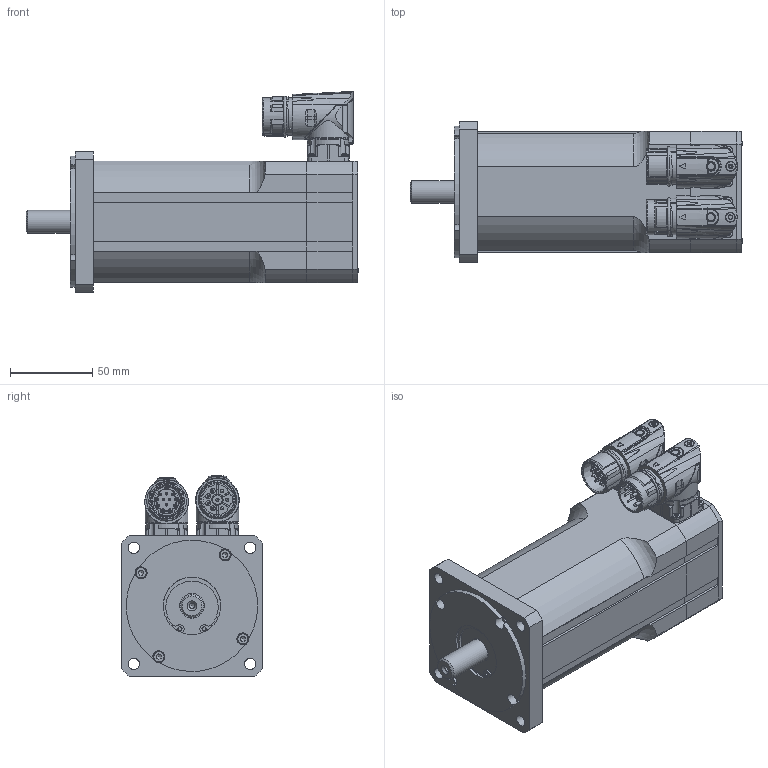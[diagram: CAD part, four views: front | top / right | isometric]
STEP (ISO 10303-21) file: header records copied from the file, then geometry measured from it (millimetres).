
FILE_DESCRIPTION(/* description */ (''),/* implementation_level */ '2;1');
FILE_NAME(/* name */ 'MR6338-Ux-Nxx-G01-A0D-M0-P0.stp',/* time_stamp */ '2018-07-09T07:25:30+02:00',/* author */ (''),/* organization */ (''),/* preprocessor_version */ 'ST-DEVELOPER v17',/* originating_system */ 'Autodesk Inventor 2019',/* authorisation */ '');
FILE_SCHEMA (('AUTOMOTIVE_DESIGN { 1 0 10303 214 3 1 1 }'));
Products named in the file (9): MR6338_G01_A0D_M0; MR6338_G01_A0D_M0_front; MR6338_G01_A0D_M0_P0; AED_0201_12-polig, Stift; 124888; 127323; BED_0201_8-polig, Stift; Basis 2; Basis 11
Assembly tree (8 placements, depth 3):
  MR6338_G01_A0D_M0
    MR6338_G01_A0D_M0_front
    MR6338_G01_A0D_M0_P0
    AED_0201_12-polig, Stift
      124888
      127323
    BED_0201_8-polig, Stift
      Basis 2
      Basis 11
Bounding box: 202.2 x 86 x 122.35 mm (x, y, z)
Volume: 404695.8 mm3; surface area: 146253.3 mm2
Topology: 6 solids, 27 shells, 1889 faces, 4964 edges, 3146 vertices
Faces by surface type: cylinder 839, plane 533, bspline 256, cone 146, torus 81, sphere 34
Full cylindrical faces by diameter (mm): 1 x16, 1.18 x12, 1.2 x12, 1.3 x4, 2 x4, 2.013 x4, 2.208 x8, 2.4 x8, 2.459 x12, 2.5 x10, 2.675 x4, 2.7 x4, 2.8 x4, 3 x9, 3.1 x4, 3.2 x1, 3.242 x5, 3.4 x4, 3.5 x4, 4 x4, 4.3 x4, 4.5 x2, 5 x8, 5.5 x2, 5.6 x4, 5.8 x1, 5.9 x2, 6 x4, 6.5 x4, 6.8 x1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
Entity records: 73303 total; most frequent: CARTESIAN_POINT 25064, ORIENTED_EDGE 9792, DIRECTION 9771, EDGE_CURVE 4896, AXIS2_PLACEMENT_3D 4056, VERTEX_POINT 3146, CIRCLE 2200, EDGE_LOOP 2098
